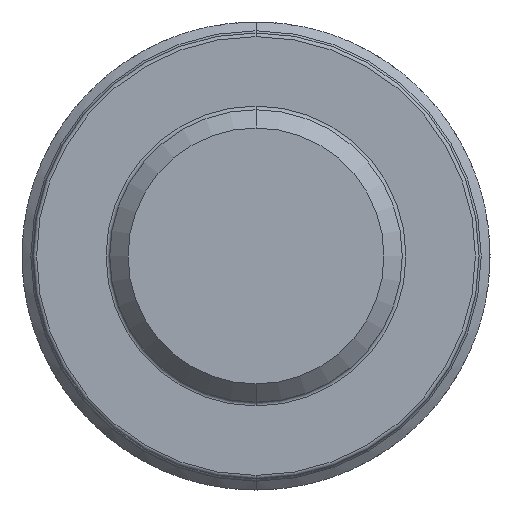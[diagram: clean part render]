
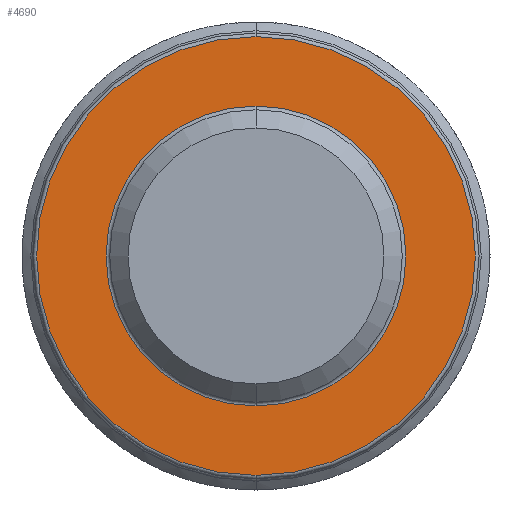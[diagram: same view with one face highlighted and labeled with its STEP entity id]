
A CAD part, front view. The second image highlights one B-rep face of the part: STEP entity #4690.
In plain terms, the highlighted planar face has unit normal (0, -1, 0).
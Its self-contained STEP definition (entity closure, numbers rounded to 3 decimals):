
#94 = AXIS2_PLACEMENT_3D ( 'NONE', #6524, #3151, #6407 ) ;
#493 = CARTESIAN_POINT ( 'NONE',  ( 0., -8., 0. ) ) ;
#653 = CIRCLE ( 'NONE', #5655, 4.1 ) ;
#952 = CARTESIAN_POINT ( 'NONE',  ( 0., -8., -6. ) ) ;
#963 = DIRECTION ( 'NONE',  ( 0., 0., -1. ) ) ;
#1531 = CIRCLE ( 'NONE', #4526, 4.1 ) ;
#1622 = DIRECTION ( 'NONE',  ( 0., 0., -1. ) ) ;
#1772 = CARTESIAN_POINT ( 'NONE',  ( 0., -8., -4.1 ) ) ;
#1828 = EDGE_CURVE ( 'NONE', #6288, #5466, #1531, .T. ) ;
#2542 = AXIS2_PLACEMENT_3D ( 'NONE', #7577, #5282, #7175 ) ;
#2589 = FACE_OUTER_BOUND ( 'NONE', #4511, .T. ) ;
#2844 = EDGE_CURVE ( 'NONE', #5466, #6288, #653, .T. ) ;
#3151 = DIRECTION ( 'NONE',  ( 0., -1., 0. ) ) ;
#3158 = DIRECTION ( 'NONE',  ( 0., 1., 0. ) ) ;
#3200 = CARTESIAN_POINT ( 'NONE',  ( 0., -8., 0. ) ) ;
#3521 = ORIENTED_EDGE ( 'NONE', *, *, #2844, .T. ) ;
#3992 = VERTEX_POINT ( 'NONE', #4257 ) ;
#4257 = CARTESIAN_POINT ( 'NONE',  ( 0., -8., 6. ) ) ;
#4314 = ORIENTED_EDGE ( 'NONE', *, *, #4325, .T. ) ;
#4325 = EDGE_CURVE ( 'NONE', #3992, #8151, #8367, .T. ) ;
#4511 = EDGE_LOOP ( 'NONE', ( #7304, #4314 ) ) ;
#4526 = AXIS2_PLACEMENT_3D ( 'NONE', #4738, #6839, #963 ) ;
#4598 = AXIS2_PLACEMENT_3D ( 'NONE', #493, #8229, #1622 ) ;
#4690 = ADVANCED_FACE ( 'NONE', ( #6370, #2589 ), #7802, .T. ) ;
#4738 = CARTESIAN_POINT ( 'NONE',  ( 0., -8., 0. ) ) ;
#5092 = ORIENTED_EDGE ( 'NONE', *, *, #1828, .T. ) ;
#5282 = DIRECTION ( 'NONE',  ( 0., -1., 0. ) ) ;
#5466 = VERTEX_POINT ( 'NONE', #8295 ) ;
#5655 = AXIS2_PLACEMENT_3D ( 'NONE', #3200, #3158, #8323 ) ;
#6288 = VERTEX_POINT ( 'NONE', #1772 ) ;
#6370 = FACE_BOUND ( 'NONE', #6470, .T. ) ;
#6407 = DIRECTION ( 'NONE',  ( 0., 0., -1. ) ) ;
#6470 = EDGE_LOOP ( 'NONE', ( #5092, #3521 ) ) ;
#6524 = CARTESIAN_POINT ( 'NONE',  ( 4., -8., 0. ) ) ;
#6839 = DIRECTION ( 'NONE',  ( 0., 1., 0. ) ) ;
#6953 = EDGE_CURVE ( 'NONE', #8151, #3992, #8240, .T. ) ;
#7175 = DIRECTION ( 'NONE',  ( 0., 0., -1. ) ) ;
#7304 = ORIENTED_EDGE ( 'NONE', *, *, #6953, .T. ) ;
#7577 = CARTESIAN_POINT ( 'NONE',  ( 0., -8., 0. ) ) ;
#7802 = PLANE ( 'NONE',  #94 ) ;
#8151 = VERTEX_POINT ( 'NONE', #952 ) ;
#8229 = DIRECTION ( 'NONE',  ( 0., -1., 0. ) ) ;
#8240 = CIRCLE ( 'NONE', #4598, 6. ) ;
#8295 = CARTESIAN_POINT ( 'NONE',  ( 0., -8., 4.1 ) ) ;
#8323 = DIRECTION ( 'NONE',  ( 0., 0., -1. ) ) ;
#8367 = CIRCLE ( 'NONE', #2542, 6. ) ;
